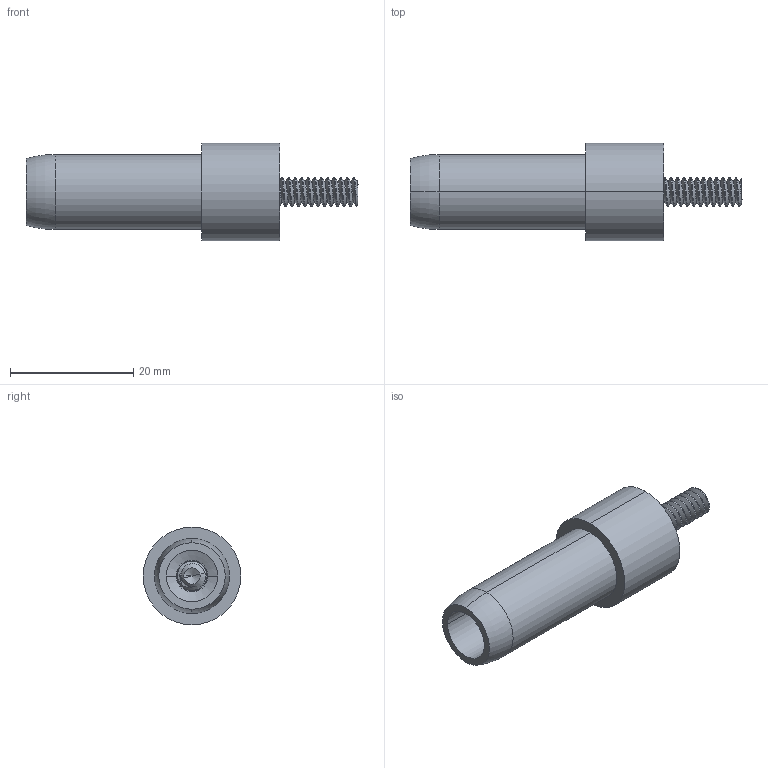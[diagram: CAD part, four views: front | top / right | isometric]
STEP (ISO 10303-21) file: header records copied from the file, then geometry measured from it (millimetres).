
FILE_DESCRIPTION (( 'STEP AP214' ), '1' );
FILE_NAME ('0.500 In. Threaded End Connector with Stud.STEP', '2014-08-07T18:50:57', ( 'ydmin' ), ( 'Microsoft' ), 'SwSTEP 2.0', 'SolidWorks 2013', '' );
FILE_SCHEMA (( 'AUTOMOTIVE_DESIGN' ));
Length unit declared in the file: inch
Products named in the file (1): 0.500 In. Threaded End Connector with Stud
Bounding box: 53.98 x 15.88 x 15.88 mm (x, y, z)
Volume: 4289.2 mm3; surface area: 3831.4 mm2
Topology: 3 solids, 3 shells, 104 faces, 267 edges, 167 vertices
Faces by surface type: cylinder 55, cone 18, plane 18, bspline 11, torus 2
Entity records: 9572 total; most frequent: CARTESIAN_POINT 6027, ORIENTED_EDGE 526, DIRECTION 363, EDGE_CURVE 263, VERTEX_POINT 167, AXIS2_PLACEMENT_3D 136, LENGTH_MEASURE_WITH_UNIT 109, DIMENSIONAL_EXPONENTS 109
